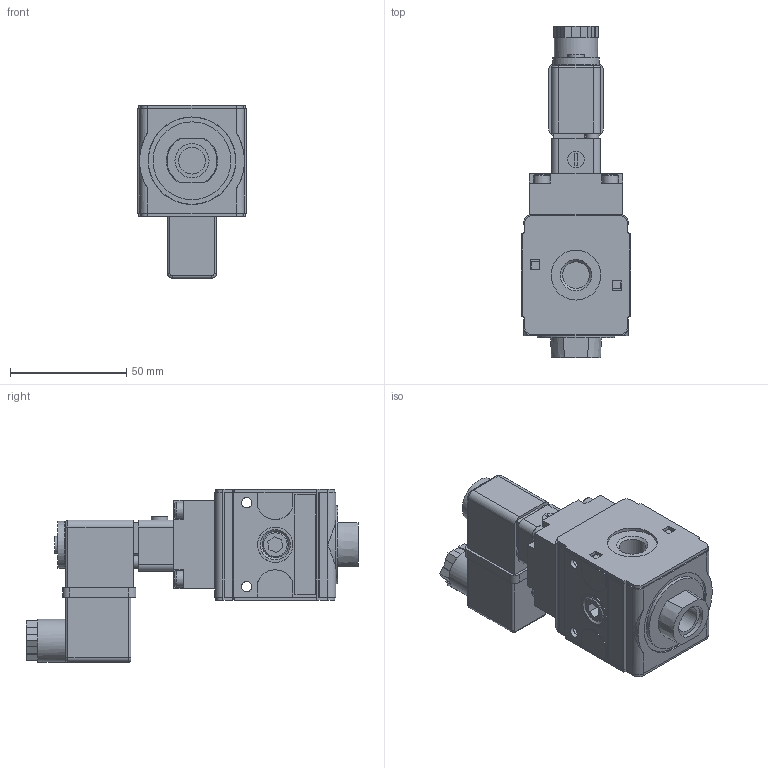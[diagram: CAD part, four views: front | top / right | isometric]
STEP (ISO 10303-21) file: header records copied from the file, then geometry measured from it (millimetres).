
FILE_DESCRIPTION((''),'2;1');
FILE_NAME('K:\ZEICHNG\Kunden Modelle\Multifix Steps\NL.2\S.11.stp','2010-03-16T13:29:22',('DDruske'),(''),'Autodesk Inventor 2009','Autodesk Inventor 2009','');
FILE_SCHEMA(('AUTOMOTIVE_DESIGN { 1 0 10303 214 1 1 1 1 }'));
Length unit declared in the file: millimetre
Products named in the file (1): Bauteil3
Bounding box: 47 x 142.5 x 74.65 mm (x, y, z)
Volume: 165429.9 mm3; surface area: 48444.6 mm2
Topology: 1 solids, 8 shells, 532 faces, 1350 edges, 863 vertices
Faces by surface type: plane 337, cylinder 92, bspline 84, torus 10, cone 8, sphere 1
Full cylindrical faces by diameter (mm): 3.2 x2, 5.2 x2, 5.5 x2, 6 x1, 7 x5, 7.128 x1, 7.2 x1, 9.7 x1, 11.2 x2, 15.1 x1, 15.5 x1, 15.7 x1, 18.5 x1, 19.2 x1, 20 x1, 21.2 x1, 21.4 x2, 23.1 x1, 33.4 x1, 37.4 x1, 37.6 x1
Entity records: 16304 total; most frequent: CARTESIAN_POINT 3336, ORIENTED_EDGE 2556, DIRECTION 2405, EDGE_CURVE 1278, VECTOR 1013, LINE 1013, VERTEX_POINT 849, AXIS2_PLACEMENT_3D 696
